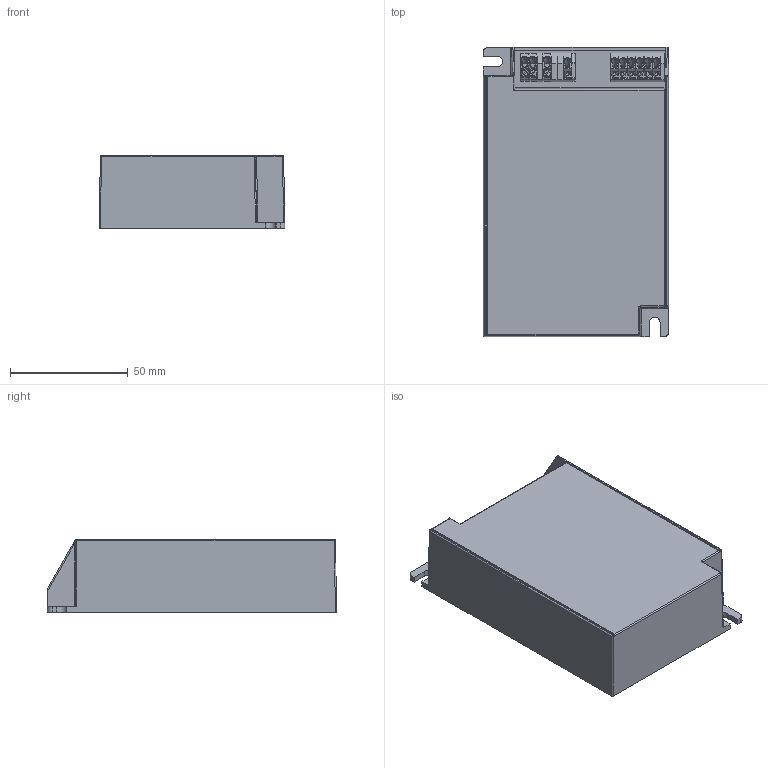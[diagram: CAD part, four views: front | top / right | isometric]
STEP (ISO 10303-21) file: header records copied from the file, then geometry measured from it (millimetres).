
FILE_DESCRIPTION (( 'STEP AP214' ), '1' );
FILE_NAME ('929002165206 XI FP 40W 0.2 0.7A SNLDAE 230V C123 SXT.STEP', '2022-05-30T12:56:43', ( 'User' ), ( 'China' ), 'SwSTEP 2.0', 'SolidWorks 2015', '' );
FILE_SCHEMA (( 'AUTOMOTIVE_DESIGN' ));
Length unit declared in the file: inch
Products named in the file (1): 929002165206 XI FP 40W 0.2 0.7A SNLDAE 230V C123 SXT
Bounding box: 79 x 123 x 31 mm (x, y, z)
Volume: 267117.4 mm3; surface area: 39467.2 mm2
Topology: 16 solids, 16 shells, 788 faces, 2040 edges, 1292 vertices
Faces by surface type: plane 583, cylinder 140, bspline 44, cone 21
Entity records: 36628 total; most frequent: CARTESIAN_POINT 8482, ORIENTED_EDGE 4064, DIRECTION 3248, EDGE_CURVE 2032, VECTOR 1454, LINE 1454, VERTEX_POINT 1292, AXIS2_PLACEMENT_3D 897
